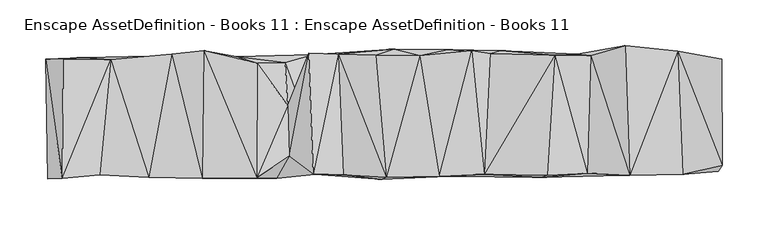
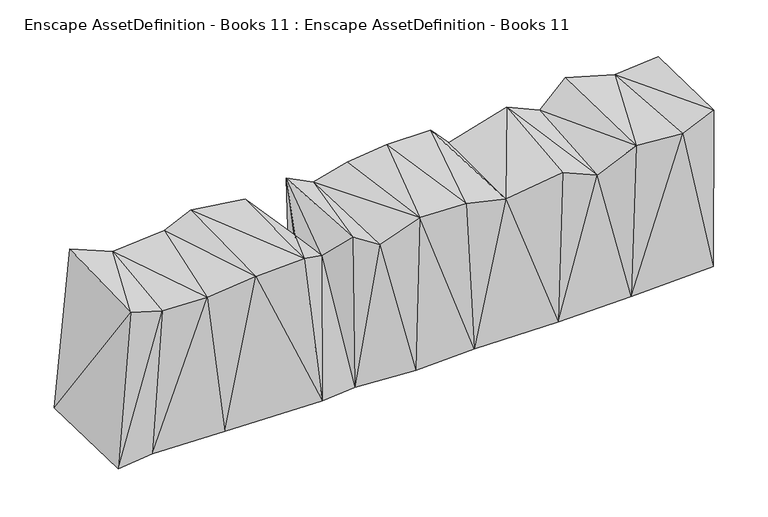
"""IFC4 building model written with IfcOpenShell, lengths in millimetres: geographic element geometry, Enscape AssetDefinition - Books 11 : Enscape AssetDefinition - Books 11."""

from ifc_helpers import new_model, si_unit, origin, place, context, project, spatial, faceted_brep, source, transform, mapped, element, save


def enscape_assetdefinition_books_11_enscape_assetdefinition_d6c49cfa(model_context):
    return source(origin(), model_context, "Body", "Brep", [
        faceted_brep([(-347.2055495, -70.4285428, 196.9300956), (-365.6097353, 60.7534684, 0.0), (-363.0040288, -71.1166114, 0.0), (-346.2619483, 60.3783727, 200.000003), (-317.525059, -64.9111494, 0.0), (-324.8253167, 62.5410229, 0.0), (-306.0917258, -66.4490312, 182.1865439), (-293.9293385, 60.2295101, 178.6278635), (-225.0586003, 64.4153208, 0.0), (-230.1422954, -68.0748299, 0.0), (-252.3877025, -69.5904419, 182.8417927), (-227.3431569, 66.0504997, 179.2221367), (-156.2617272, 63.3345842, 0.0), (-192.1265572, 69.8459744, 191.0809577), (-112.0135486, -70.7508922, 0.0), (-193.3819354, -70.299603, 190.1573092), (-133.5333884, 56.296885, 192.931816), (-133.5837841, -69.736965, 192.1769381), (-102.4732739, 56.6579141, 57.846494), (-71.817562, 65.5945241, 0.0), (-99.6506959, 9.4441576, 162.7742946), (-98.0870128, -45.9853224, 169.0254509), (-69.6689785, -65.9590662, 0.0), (-76.5015483, 66.9729933, 193.6081648), (-71.6335326, -65.544121, 195.5961585), (-86.8248343, 14.0120964, 64.0460923), (-44.1590846, 66.2661791, 177.5693893), (-38.968727, -66.9096932, 175.7173687), (2.6139347, -71.4284033, 0.0), (8.1852488, -69.5224553, 195.5328584), (16.3036846, 71.8093589, 0.0), (-2.9948892, 65.1807487, 189.8115128), (76.3339251, -68.1545362, 0.0), (66.4666146, -68.2987124, 192.8438991), (44.9456088, 64.3156841, 196.2220967), (75.7021308, 71.1283311, 0.0), (115.8008277, -66.3997978, 179.9934357), (178.5540134, -69.4263428, 0.0), (133.5732341, 70.0886175, 0.0), (102.2142246, 69.7205514, 191.8862462), (122.2629845, 66.4994344, 170.6231087), (193.1240559, 65.239355, 192.3387051), (218.0959135, 65.9051463, 0.0), (185.1228327, -67.291826, 190.7550991), (228.9631069, -64.7822097, 170.5012172), (232.9965234, 64.6755472, 174.9730259), (269.6467042, -67.1886727, 0.0), (360.6467843, 63.4025708, 0.0), (270.7895637, 75.6446943, 197.5548565), (275.6810188, -67.2636852, 193.7722564), (333.4607184, -66.3704947, 188.7131929), (372.7728426, -62.6359731, 0.0), (376.3210475, 60.3678226, 196.8820244), (328.3699751, 69.4697127, 184.8450303), (377.2751689, -56.0108759, 197.4681169)], [[[0, 1, 2]], [[1, 0, 3]], [[1, 4, 2]], [[1, 5, 4]], [[3, 5, 1]], [[6, 2, 4]], [[6, 0, 2]], [[7, 0, 6]], [[7, 3, 0]], [[3, 7, 5]], [[5, 7, 8]], [[5, 8, 4]], [[8, 9, 4]], [[10, 4, 9]], [[10, 6, 4]], [[7, 6, 10]], [[7, 11, 8]], [[11, 7, 10]], [[12, 9, 8]], [[13, 12, 8]], [[13, 8, 11]], [[14, 15, 9]], [[15, 10, 9]], [[12, 14, 9]], [[11, 10, 15]], [[13, 11, 15]], [[13, 16, 12]], [[13, 15, 17]], [[13, 17, 16]], [[18, 19, 12]], [[12, 19, 14]], [[12, 16, 18]], [[16, 17, 20]], [[16, 20, 18]], [[17, 15, 14]], [[21, 17, 14]], [[21, 20, 17]], [[22, 21, 14]], [[19, 22, 14]], [[23, 21, 24]], [[23, 20, 21]], [[21, 22, 24]], [[25, 20, 23]], [[25, 18, 20]], [[19, 18, 25]], [[23, 19, 25]], [[26, 23, 24]], [[23, 26, 19]], [[26, 24, 27]], [[27, 24, 22]], [[27, 22, 28]], [[19, 28, 22]], [[26, 27, 29]], [[28, 29, 27]], [[26, 30, 19]], [[26, 31, 30]], [[31, 26, 29]], [[29, 32, 33]], [[32, 29, 28]], [[34, 31, 29]], [[34, 29, 33]], [[30, 32, 28]], [[19, 30, 28]], [[35, 32, 30]], [[34, 30, 31]], [[34, 35, 30]], [[36, 33, 32]], [[37, 36, 32]], [[37, 32, 38]], [[38, 32, 35]], [[39, 33, 36]], [[39, 34, 33]], [[34, 40, 35]], [[39, 40, 34]], [[40, 38, 35]], [[40, 41, 38]], [[38, 42, 37]], [[41, 42, 38]], [[39, 36, 40]], [[41, 40, 36]], [[43, 36, 37]], [[43, 41, 36]], [[41, 43, 44]], [[45, 41, 44]], [[41, 45, 42]], [[42, 46, 37]], [[42, 47, 46]], [[48, 42, 45]], [[48, 47, 42]], [[49, 45, 44]], [[48, 45, 49]], [[49, 44, 46]], [[46, 44, 37]], [[44, 43, 37]], [[50, 46, 51]], [[49, 46, 50]], [[46, 47, 51]], [[47, 52, 51]], [[53, 52, 47]], [[48, 53, 47]], [[53, 48, 49]], [[50, 53, 49]], [[54, 50, 51]], [[53, 50, 54]], [[52, 54, 51]], [[52, 53, 54]]]),
    ])


if __name__ == "__main__":
    model = new_model("IFC4")
    model_context = context("Model", 3, world=origin())
    ifc_project = project(units=[si_unit("LENGTHUNIT", "METRE", prefix="MILLI")], contexts=[model_context])
    site = spatial("IfcSite", under=ifc_project)
    building = spatial("IfcBuilding", under=site)
    placement = place(None, origin())
    enscape_assetdefinition_books_11_enscape_assetdefinition_shape = enscape_assetdefinition_books_11_enscape_assetdefinition_d6c49cfa(model_context)
    element("IfcGeographicElement", 1, ObjectType="Enscape AssetDefinition - Books 11 : Enscape AssetDefinition - Books 11", at=placement, inside=building, context=model_context, shape_type="MappedRepresentation", body=[
        mapped(enscape_assetdefinition_books_11_enscape_assetdefinition_shape, transform((0.0, 0.0, 0.0), x_axis=(1.0, 0.0, 0.0), y_axis=(0.0, 1.0, 0.0), z_axis=(0.0, 0.0, 1.0))),
    ])
    save(model, "model.ifc")
